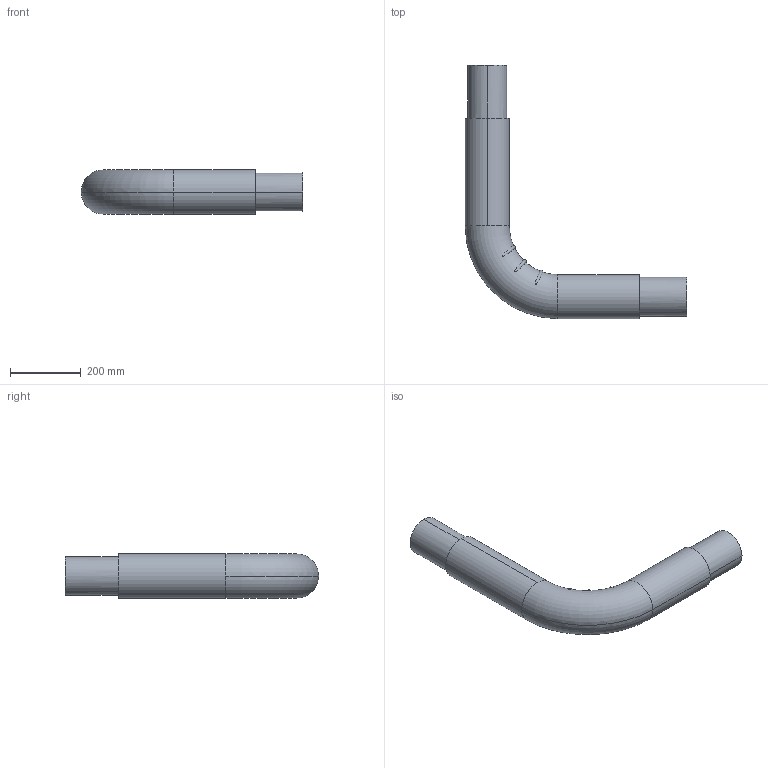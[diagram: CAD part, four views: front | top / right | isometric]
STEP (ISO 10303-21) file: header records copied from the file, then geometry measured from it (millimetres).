
FILE_DESCRIPTION (( 'STEP AP203' ), '1' );
FILE_NAME ('KP_3-125-110SC.step', '2011-08-08T11:39:46', ( '' ), ( '' ), 'SwSTEP 2.0', 'SolidWorks 2011', '' );
FILE_SCHEMA (( 'CONFIG_CONTROL_DESIGN' ));
Length unit declared in the file: millimetre
Products named in the file (1): KP_3-125-110SC
Bounding box: 627.5 x 717.5 x 125 mm (x, y, z)
Volume: 5920870.9 mm3; surface area: 1853684 mm2
Topology: 2 solids, 2 shells, 251 faces, 681 edges, 396 vertices
Faces by surface type: cylinder 144, torus 95, plane 12
Entity records: 8599 total; most frequent: CARTESIAN_POINT 1819, DIRECTION 1646, ORIENTED_EDGE 1362, AXIS2_PLACEMENT_3D 731, EDGE_CURVE 681, CIRCLE 479, VERTEX_POINT 396, EDGE_LOOP 257
